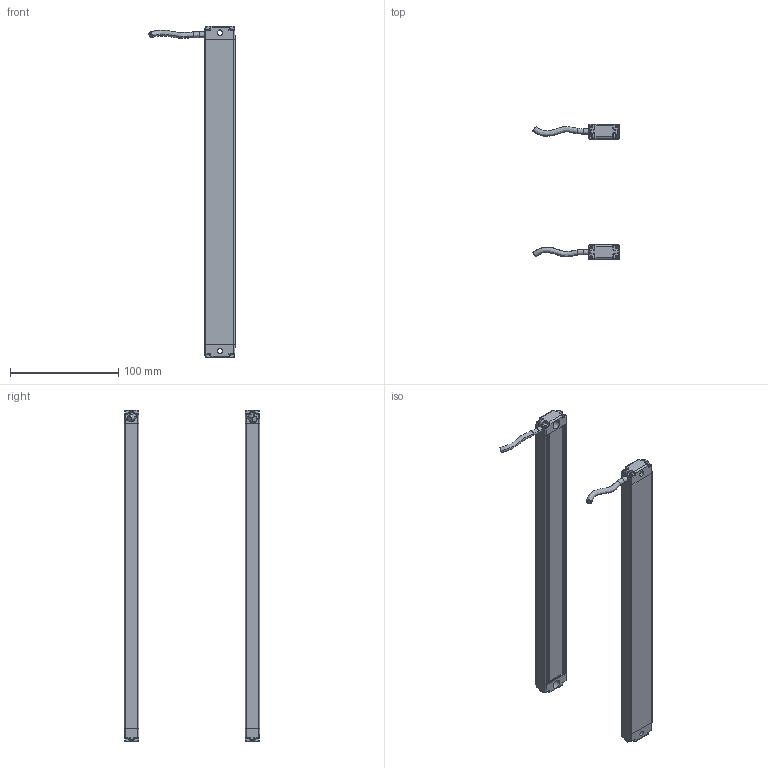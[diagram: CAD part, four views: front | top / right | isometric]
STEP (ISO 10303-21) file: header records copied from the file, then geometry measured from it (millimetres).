
FILE_DESCRIPTION(/* description */ (''),/* implementation_level */ '2;1');
FILE_NAME(/* name */ '2810（13x28w).stp',/* time_stamp */ '2020-09-18T15:50:53+08:00',/* author */ (''),/* organization */ (''),/* preprocessor_version */ 'ST-DEVELOPER v16',/* originating_system */ 'SIEMENS PLM Software NX 10.0',/* authorisation */ '');
FILE_SCHEMA (('AP203_CONFIGURATION_CONTROLLED_3D_DESIGN_OF_MECHANICAL_PARTS_AND_ASSEMBLIES_MIM_LF { 1 0 10303 403 2 1 2}'));
Length unit declared in the file: millimetre
Products named in the file (1): Admi073CA846p35h
Bounding box: 79.6 x 125.02 x 306 mm (x, y, z)
Volume: 91798.4 mm3; surface area: 121278.1 mm2
Topology: 10 solids, 10 shells, 760 faces, 2150 edges, 1419 vertices
Faces by surface type: plane 356, cylinder 312, torus 52, bspline 40
Entity records: 28359 total; most frequent: CARTESIAN_POINT 8823, ORIENTED_EDGE 4300, DIRECTION 3785, EDGE_CURVE 2150, VERTEX_POINT 1419, AXIS2_PLACEMENT_3D 1285, LINE 1215, VECTOR 1215
